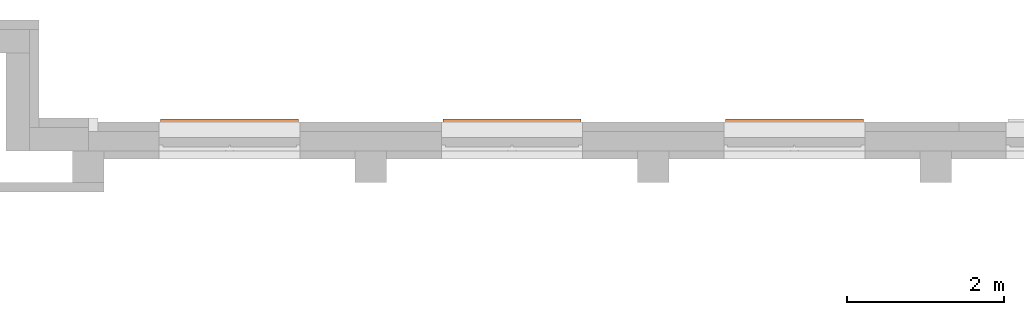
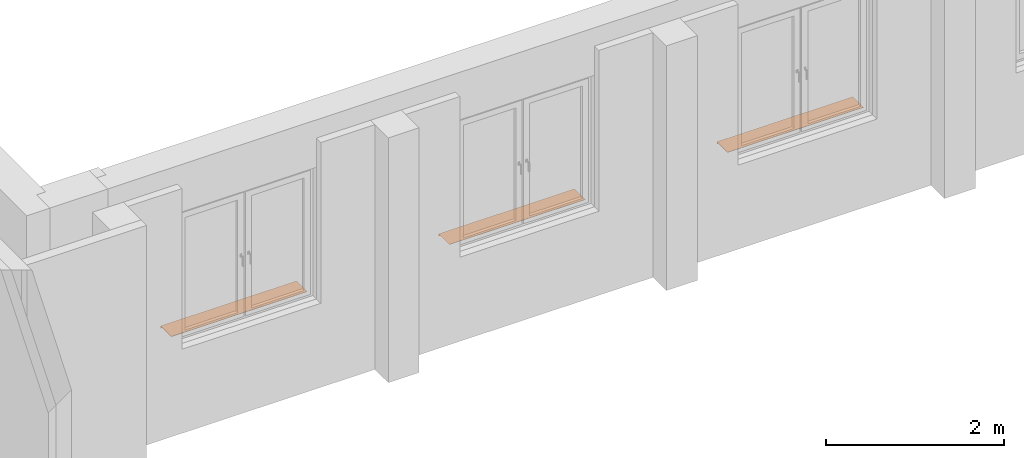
# One storey, part 6 of 7: 3 proxies.
"""IFC4 building model written with IfcOpenShell, lengths in metres."""

from ifc_helpers import new_model, entity, si_unit, converted_unit, derived_unit, frame, origin, origin_with_axes, place, context, subcontext, project, spatial, faceted_brep, source, transform, mapped, material, element, save


model = new_model("IFC4")

# Units and contexts
model_context = context("Model", 3, precision=1e-05, world=origin())
body_context = subcontext(model_context, "Body", "Model", "MODEL_VIEW")
ifc_project = project(units=[si_unit("LENGTHUNIT", "METRE"), si_unit("AREAUNIT", "SQUARE_METRE"), si_unit("VOLUMEUNIT", "CUBIC_METRE"), si_unit("MASSUNIT", "GRAM", prefix="KILO"), converted_unit("PLANEANGLEUNIT", "DEGREE", entity("IfcPlaneAngleMeasure", 0.0174532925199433), si_unit("PLANEANGLEUNIT", "RADIAN"), dimensions=[0, 0, 0, 0, 0, 0, 0]), derived_unit("THERMALTRANSMITTANCEUNIT", [(si_unit("POWERUNIT", "WATT"), 1), (si_unit("THERMODYNAMICTEMPERATUREUNIT", "KELVIN"), -1), (si_unit("LENGTHUNIT", "METRE"), -2)]), derived_unit("VOLUMETRICFLOWRATEUNIT", [(si_unit("LENGTHUNIT", "METRE"), 3), (converted_unit("TIMEUNIT", "hour", entity("IfcTimeMeasure", 3600.0), si_unit("TIMEUNIT", "SECOND"), dimensions=[0, 0, 1, 0, 0, 0, 0]), -1), (si_unit("LENGTHUNIT", "METRE"), -1)])], contexts=[model_context])

# Site, building, storey
site_placement = place(None, origin())
site = spatial("IfcSite", under=ifc_project, at=site_placement, Name="3. ASŘ", CompositionType="ELEMENT")
building_placement = place(site_placement, origin())
building = spatial("IfcBuilding", under=site, at=building_placement, Name="Pavilon B", CompositionType="ELEMENT")
storey_placement = place(building_placement, frame((0.0, 0.0, 3.6)))
storey = spatial("IfcBuildingStorey", under=building, at=storey_placement, Name="Půdorys 2.NP", CompositionType="ELEMENT", Elevation=3.6)

# Proxies
ifc_material_1 = material(Name="HLINÍKOVÝ PLECH ELOXOVANÝ")
shared_shape = source(origin_with_axes(), body_context, "Body", "Brep", [
    faceted_brep([(0.02, 0.04, 0.025), (0.02, 0.24, 0.025), (0.02, 0.24, 0.03), (0.02, 0.04, 0.03), (1.74, 0.04, 0.025), (1.74, 0.04, 0.03), (1.74, 0.24, 0.03), (1.74, 0.24, 0.025), (0.0, 0.04, 0.025), (0.0, 0.005, 0.025), (1.76, 0.005, 0.025), (1.76, 0.04, 0.025), (1.76, 0.04, 0.03), (1.76, 0.0, 0.03), (0.0, 0.0, 0.03), (0.0, 0.04, 0.03), (0.0, 0.0, 0.0), (0.0, 0.005, 0.0), (1.76, 0.005, 0.0), (1.76, 0.0, 0.0)], [[[0, 1, 2, 3]], [[4, 5, 6, 7]], [[1, 0, 8, 9, 10, 11, 4, 7]], [[2, 1, 7, 6]], [[3, 2, 6, 5, 12, 13, 14, 15]], [[8, 15, 14, 16, 17, 9]], [[11, 10, 18, 19, 13, 12]], [[15, 8, 0, 3]], [[5, 4, 11, 12]], [[16, 14, 13, 19]], [[17, 16, 19, 18]], [[9, 17, 18, 10]]], orient=[[False], [False], [False], [False], [False], [False], [False], [False], [False], [False], [False], [False]]),
    faceted_brep([(0.0, 0.04, 0.025), (0.0, 0.24, 0.025), (0.0, 0.24, 0.03), (0.0, 0.04, 0.03), (0.02, 0.04, 0.025), (0.02, 0.04, 0.03), (0.02, 0.24, 0.03), (0.02, 0.24, 0.025)], [[[0, 1, 2, 3]], [[4, 5, 6, 7]], [[1, 0, 4, 7]], [[2, 1, 7, 6]], [[3, 2, 6, 5]], [[0, 3, 5, 4]]], orient=[[False], [False], [False], [False], [False], [False]]),
    faceted_brep([(1.74, 0.04, 0.025), (1.74, 0.24, 0.025), (1.74, 0.24, 0.03), (1.74, 0.04, 0.03), (1.76, 0.04, 0.025), (1.76, 0.04, 0.03), (1.76, 0.24, 0.03), (1.76, 0.24, 0.025)], [[[0, 1, 2, 3]], [[4, 5, 6, 7]], [[1, 0, 4, 7]], [[2, 1, 7, 6]], [[3, 2, 6, 5]], [[0, 3, 5, 4]]], orient=[[False], [False], [False], [False], [False], [False]]),
])
proxy_1_placement = place(storey_placement, frame((39.53, -16.4400000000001, 1.025), z_axis=(0.0, 0.0, 1.0), x_axis=(-1.0, 1.22464679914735e-16, 0.0)))
element("IfcBuildingElementProxy", 1, at=proxy_1_placement, inside=storey, material=ifc_material_1, Name="Parapet vnější", context=body_context, shape_type="MappedRepresentation", body=[
    mapped(shared_shape, transform((0.0, 0.0, 0.0), x_axis=(1.0, 0.0, 0.0), y_axis=(0.0, 1.0, 0.0), z_axis=(0.0, 0.0, 1.0), scale=1.0)),
])
ifc_material_2 = material(Name="HLINÍKOVÝ PLECH ELOXOVANÝ")
proxy_2_placement = place(storey_placement, frame((35.93, -16.4400000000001, 1.025), z_axis=(0.0, 0.0, 1.0), x_axis=(-1.0, 1.22464679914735e-16, 0.0)))
element("IfcBuildingElementProxy", 2, at=proxy_2_placement, inside=storey, material=ifc_material_2, Name="Parapet vnější", context=body_context, shape_type="MappedRepresentation", body=[
    mapped(shared_shape, transform((0.0, 0.0, 0.0), x_axis=(1.0, 0.0, 0.0), y_axis=(0.0, 1.0, 0.0), z_axis=(0.0, 0.0, 1.0), scale=1.0)),
])
ifc_material_3 = material(Name="HLINÍKOVÝ PLECH ELOXOVANÝ")
proxy_3_placement = place(storey_placement, frame((43.13, -16.4400000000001, 1.025), z_axis=(0.0, 0.0, 1.0), x_axis=(-1.0, 1.22464679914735e-16, 0.0)))
element("IfcBuildingElementProxy", 3, at=proxy_3_placement, inside=storey, material=ifc_material_3, Name="Parapet vnější", context=body_context, shape_type="MappedRepresentation", body=[
    mapped(shared_shape, transform((0.0, 0.0, 0.0), x_axis=(1.0, 0.0, 0.0), y_axis=(0.0, 1.0, 0.0), z_axis=(0.0, 0.0, 1.0), scale=1.0)),
])

save(model, "model.ifc")
